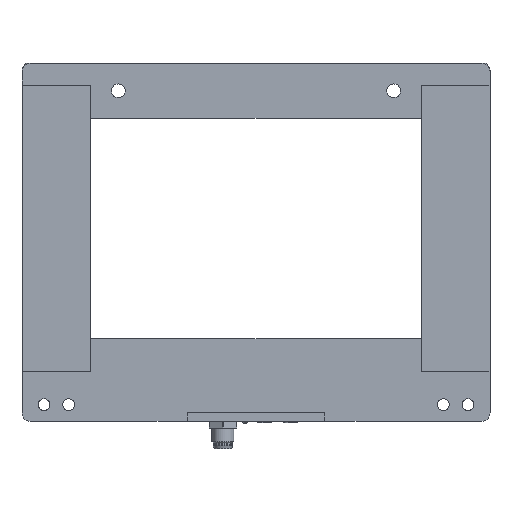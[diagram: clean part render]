
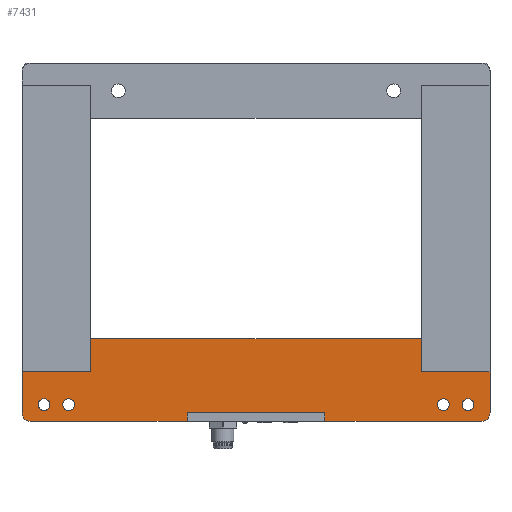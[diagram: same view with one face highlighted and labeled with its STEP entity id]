
A CAD part, top view. The second image highlights one B-rep face of the part: STEP entity #7431.
In plain terms, the highlighted planar face has unit normal (0, 0, 1).
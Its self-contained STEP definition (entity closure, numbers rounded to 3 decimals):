
#482=LINE($,#11373,#1084);
#489=LINE($,#11389,#1091);
#492=LINE($,#11396,#1094);
#495=LINE($,#11402,#1097);
#502=LINE($,#11428,#1104);
#503=LINE($,#11432,#1105);
#504=LINE($,#11434,#1106);
#505=LINE($,#11436,#1107);
#506=LINE($,#11438,#1108);
#507=LINE($,#11440,#1109);
#508=LINE($,#11441,#1110);
#509=LINE($,#11443,#1111);
#1084=VECTOR($,#9167,57.);
#1091=VECTOR($,#9178,15.);
#1094=VECTOR($,#9183,3.);
#1097=VECTOR($,#9188,50.);
#1104=VECTOR($,#9209,57.);
#1105=VECTOR($,#9212,15.);
#1106=VECTOR($,#9213,25.);
#1107=VECTOR($,#9214,12.);
#1108=VECTOR($,#9215,120.);
#1109=VECTOR($,#9216,12.);
#1110=VECTOR($,#9217,25.);
#1111=VECTOR($,#9220,3.);
#1623=PLANE($,#8016);
#1871=FACE_BOUND($,#2681,.T.);
#1872=FACE_BOUND($,#2682,.T.);
#1873=FACE_BOUND($,#2683,.T.);
#1874=FACE_BOUND($,#2684,.T.);
#2151=FACE_OUTER_BOUND($,#2680,.T.);
#2680=EDGE_LOOP($,(#5664,#5665,#5666,#5667,#5668,#5669,#5670,#5671,#5672,
#5673,#5674,#5675,#5676,#5677));
#2681=EDGE_LOOP($,(#5678));
#2682=EDGE_LOOP($,(#5679));
#2683=EDGE_LOOP($,(#5680));
#2684=EDGE_LOOP($,(#5681));
#3254=CIRCLE($,#8017,3.);
#3255=CIRCLE($,#8018,3.);
#3256=CIRCLE($,#8019,2.15);
#3257=CIRCLE($,#8020,2.15);
#3258=CIRCLE($,#8021,2.15);
#3259=CIRCLE($,#8022,2.15);
#3684=VERTEX_POINT($,#11371);
#3685=VERTEX_POINT($,#11372);
#3691=VERTEX_POINT($,#11386);
#3692=VERTEX_POINT($,#11388);
#3694=VERTEX_POINT($,#11393);
#3695=VERTEX_POINT($,#11395);
#3697=VERTEX_POINT($,#11401);
#3709=VERTEX_POINT($,#11427);
#3710=VERTEX_POINT($,#11429);
#3711=VERTEX_POINT($,#11431);
#3712=VERTEX_POINT($,#11433);
#3713=VERTEX_POINT($,#11435);
#3714=VERTEX_POINT($,#11437);
#3715=VERTEX_POINT($,#11439);
#3716=VERTEX_POINT($,#11444);
#3717=VERTEX_POINT($,#11446);
#3718=VERTEX_POINT($,#11448);
#3719=VERTEX_POINT($,#11450);
#4441=EDGE_CURVE($,#3684,#3685,#482,.T.);
#4449=EDGE_CURVE($,#3692,#3691,#489,.T.);
#4452=EDGE_CURVE($,#3694,#3695,#492,.T.);
#4455=EDGE_CURVE($,#3695,#3697,#495,.T.);
#4468=EDGE_CURVE($,#3694,#3709,#502,.T.);
#4469=EDGE_CURVE($,#3709,#3710,#3254,.T.);
#4470=EDGE_CURVE($,#3710,#3711,#503,.T.);
#4471=EDGE_CURVE($,#3712,#3711,#504,.T.);
#4472=EDGE_CURVE($,#3713,#3712,#505,.T.);
#4473=EDGE_CURVE($,#3713,#3714,#506,.T.);
#4474=EDGE_CURVE($,#3715,#3714,#507,.T.);
#4475=EDGE_CURVE($,#3692,#3715,#508,.T.);
#4476=EDGE_CURVE($,#3691,#3684,#3255,.T.);
#4477=EDGE_CURVE($,#3697,#3685,#509,.T.);
#4478=EDGE_CURVE($,#3716,#3716,#3256,.T.);
#4479=EDGE_CURVE($,#3717,#3717,#3257,.T.);
#4480=EDGE_CURVE($,#3718,#3718,#3258,.T.);
#4481=EDGE_CURVE($,#3719,#3719,#3259,.T.);
#5664=ORIENTED_EDGE($,*,*,#4468,.T.);
#5665=ORIENTED_EDGE($,*,*,#4469,.T.);
#5666=ORIENTED_EDGE($,*,*,#4470,.T.);
#5667=ORIENTED_EDGE($,*,*,#4471,.F.);
#5668=ORIENTED_EDGE($,*,*,#4472,.F.);
#5669=ORIENTED_EDGE($,*,*,#4473,.T.);
#5670=ORIENTED_EDGE($,*,*,#4474,.F.);
#5671=ORIENTED_EDGE($,*,*,#4475,.F.);
#5672=ORIENTED_EDGE($,*,*,#4449,.T.);
#5673=ORIENTED_EDGE($,*,*,#4476,.T.);
#5674=ORIENTED_EDGE($,*,*,#4441,.T.);
#5675=ORIENTED_EDGE($,*,*,#4477,.F.);
#5676=ORIENTED_EDGE($,*,*,#4455,.F.);
#5677=ORIENTED_EDGE($,*,*,#4452,.F.);
#5678=ORIENTED_EDGE($,*,*,#4478,.T.);
#5679=ORIENTED_EDGE($,*,*,#4479,.T.);
#5680=ORIENTED_EDGE($,*,*,#4480,.T.);
#5681=ORIENTED_EDGE($,*,*,#4481,.T.);
#7431=ADVANCED_FACE($,(#2151,#1871,#1872,#1873,#1874),#1623,.T.);
#8016=AXIS2_PLACEMENT_3D($,#11426,#9207,#9208);
#8017=AXIS2_PLACEMENT_3D($,#11430,#9210,#9211);
#8018=AXIS2_PLACEMENT_3D($,#11442,#9218,#9219);
#8019=AXIS2_PLACEMENT_3D($,#11445,#9221,#9222);
#8020=AXIS2_PLACEMENT_3D($,#11447,#9223,#9224);
#8021=AXIS2_PLACEMENT_3D($,#11449,#9225,#9226);
#8022=AXIS2_PLACEMENT_3D($,#11451,#9227,#9228);
#9167=DIRECTION($,(1.,0.,0.));
#9178=DIRECTION($,(0.,-1.,0.));
#9183=DIRECTION($,(0.,1.,0.));
#9188=DIRECTION($,(-1.,0.,0.));
#9207=DIRECTION('center_axis',(0.,0.,1.));
#9208=DIRECTION('ref_axis',(1.,0.,0.));
#9209=DIRECTION($,(1.,0.,0.));
#9210=DIRECTION('center_axis',(0.,0.,1.));
#9211=DIRECTION('ref_axis',(1.,0.,0.));
#9212=DIRECTION($,(0.,1.,0.));
#9213=DIRECTION($,(1.,0.,0.));
#9214=DIRECTION($,(0.,-1.,0.));
#9215=DIRECTION($,(-1.,0.,0.));
#9216=DIRECTION($,(0.,1.,0.));
#9217=DIRECTION($,(1.,0.,0.));
#9218=DIRECTION('center_axis',(0.,0.,1.));
#9219=DIRECTION('ref_axis',(1.,0.,0.));
#9220=DIRECTION($,(0.,-1.,0.));
#9221=DIRECTION('center_axis',(0.,0.,-1.));
#9222=DIRECTION('ref_axis',(0.,-1.,0.));
#9223=DIRECTION('center_axis',(0.,0.,-1.));
#9224=DIRECTION('ref_axis',(0.,-1.,0.));
#9225=DIRECTION('center_axis',(0.,0.,-1.));
#9226=DIRECTION('ref_axis',(0.,-1.,0.));
#9227=DIRECTION('center_axis',(0.,0.,-1.));
#9228=DIRECTION('ref_axis',(0.,-1.,0.));
#11371=CARTESIAN_POINT('',(3.,-30.,0.));
#11372=CARTESIAN_POINT('',(60.,-30.,0.));
#11373=CARTESIAN_POINT($,(0.,-30.,0.));
#11386=CARTESIAN_POINT('',(0.,-27.,0.));
#11388=CARTESIAN_POINT('',(0.,-12.,0.));
#11389=CARTESIAN_POINT($,(0.,0.,
0.));
#11393=CARTESIAN_POINT('',(110.,-30.,0.));
#11395=CARTESIAN_POINT('',(110.,-27.,0.));
#11396=CARTESIAN_POINT($,(110.,-30.,0.));
#11401=CARTESIAN_POINT('',(60.,-27.,0.));
#11402=CARTESIAN_POINT($,(110.,-27.,0.));
#11426=CARTESIAN_POINT('Origin',(0.,-30.,0.));
#11427=CARTESIAN_POINT('',(167.,-30.,0.));
#11428=CARTESIAN_POINT($,(0.,-30.,0.));
#11429=CARTESIAN_POINT('',(170.,-27.,0.));
#11430=CARTESIAN_POINT('Origin',(167.,-27.,0.));
#11431=CARTESIAN_POINT('',(170.,-12.,0.));
#11432=CARTESIAN_POINT($,(170.,-30.,0.));
#11433=CARTESIAN_POINT('',(145.,-12.,0.));
#11434=CARTESIAN_POINT($,(145.,-12.,0.));
#11435=CARTESIAN_POINT('',(145.,0.,0.));
#11436=CARTESIAN_POINT($,(145.,-30.,0.));
#11437=CARTESIAN_POINT('',(25.,0.,0.));
#11438=CARTESIAN_POINT($,(170.,0.,0.));
#11439=CARTESIAN_POINT('',(25.,-12.,0.));
#11440=CARTESIAN_POINT($,(25.,-12.,0.));
#11441=CARTESIAN_POINT($,(-6.84,-12.,0.));
#11442=CARTESIAN_POINT('Origin',(3.,-27.,0.));
#11443=CARTESIAN_POINT($,(60.,-27.,0.));
#11444=CARTESIAN_POINT('',(8.,-26.15,0.));
#11445=CARTESIAN_POINT('Origin',(8.,-24.,0.));
#11446=CARTESIAN_POINT('',(153.,-26.15,0.));
#11447=CARTESIAN_POINT('Origin',(153.,-24.,0.));
#11448=CARTESIAN_POINT('',(162.,-26.15,0.));
#11449=CARTESIAN_POINT('Origin',(162.,-24.,0.));
#11450=CARTESIAN_POINT('',(17.,-26.15,0.));
#11451=CARTESIAN_POINT('Origin',(17.,-24.,0.));
